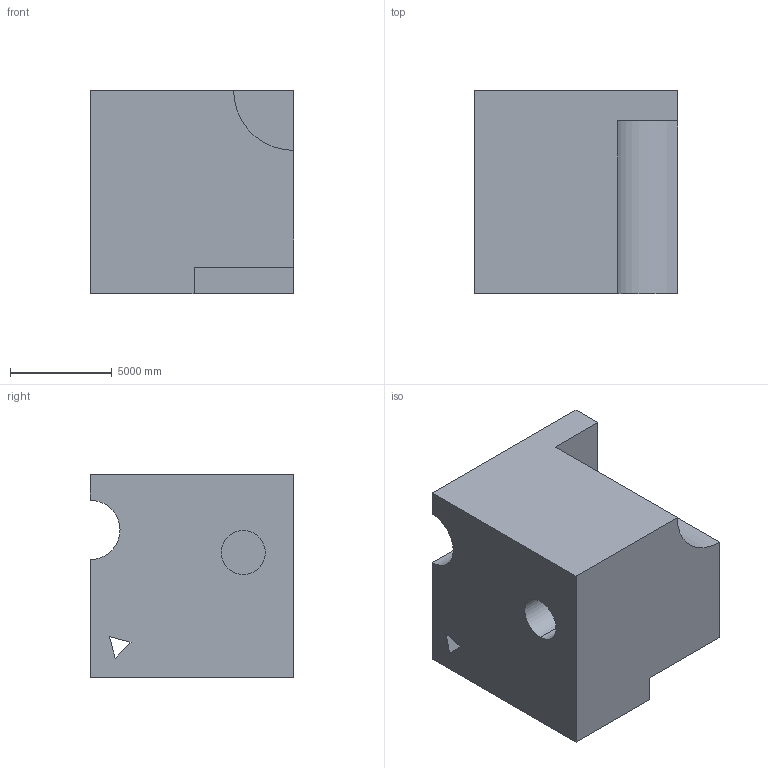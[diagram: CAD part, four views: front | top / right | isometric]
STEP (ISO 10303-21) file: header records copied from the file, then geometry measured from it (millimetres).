
FILE_DESCRIPTION (( 'STEP AP203' ), '1' );
FILE_NAME ('411.STEP', '2022-07-29T11:10:27', ( 'user' ), ( '' ), 'SwSTEP 2.0', 'SolidWorks 2021', '' );
FILE_SCHEMA (( 'CONFIG_CONTROL_DESIGN' ));
Length unit declared in the file: centimetre
Products named in the file (1): 411
Bounding box: 10000 x 10000 x 10000 mm (x, y, z)
Volume: 854379805516.6 mm3; surface area: 691045255.4 mm2
Topology: 1 solids, 1 shells, 19 faces, 48 edges, 32 vertices
Faces by surface type: plane 15, cylinder 4
Entity records: 651 total; most frequent: CARTESIAN_POINT 100, ORIENTED_EDGE 96, DIRECTION 96, EDGE_CURVE 48, VECTOR 40, LINE 40, VERTEX_POINT 32, AXIS2_PLACEMENT_3D 28
